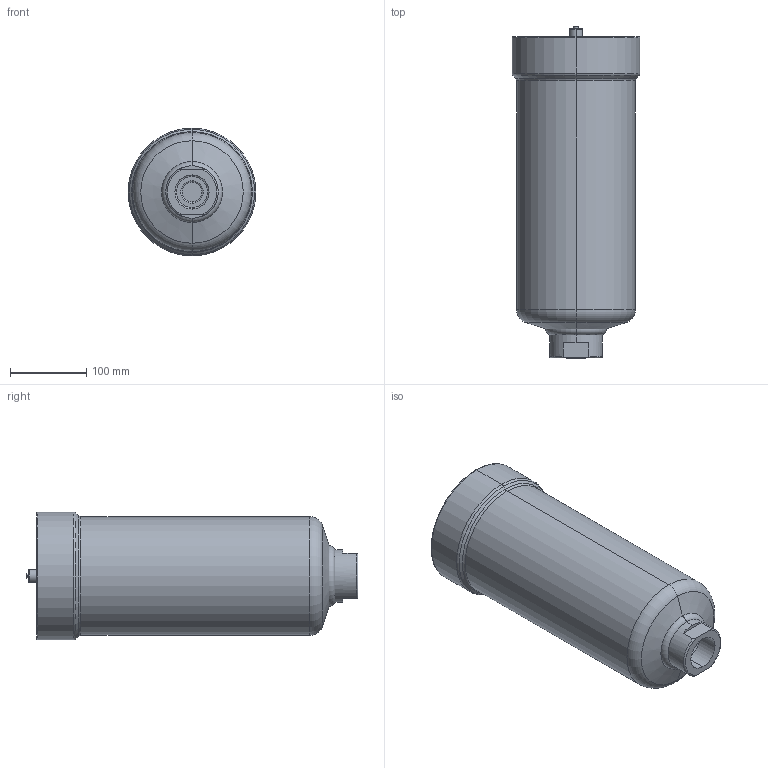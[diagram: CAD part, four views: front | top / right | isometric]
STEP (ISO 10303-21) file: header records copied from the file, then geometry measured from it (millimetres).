
FILE_DESCRIPTION (( 'STEP AP214' ), '1' );
FILE_NAME ('U060A04X1-AI.STEP', '2025-05-28T10:07:13', ( '' ), ( '' ), 'SwSTEP 2.0', 'SolidWorks 2024', '' );
FILE_SCHEMA (( 'AUTOMOTIVE_DESIGN' ));
Length unit declared in the file: millimetre
Products named in the file (1): U060A04X1-AI
Bounding box: 168 x 436.65 x 168 mm (x, y, z)
Volume: 7359642.4 mm3; surface area: 261168.5 mm2
Topology: 6 solids, 7 shells, 273 faces, 605 edges, 358 vertices
Faces by surface type: plane 103, cylinder 76, torus 50, cone 40, sphere 4
Entity records: 7701 total; most frequent: DIRECTION 1437, CARTESIAN_POINT 1432, ORIENTED_EDGE 1186, AXIS2_PLACEMENT_3D 593, EDGE_CURVE 593, VERTEX_POINT 358, CIRCLE 319, EDGE_LOOP 313
